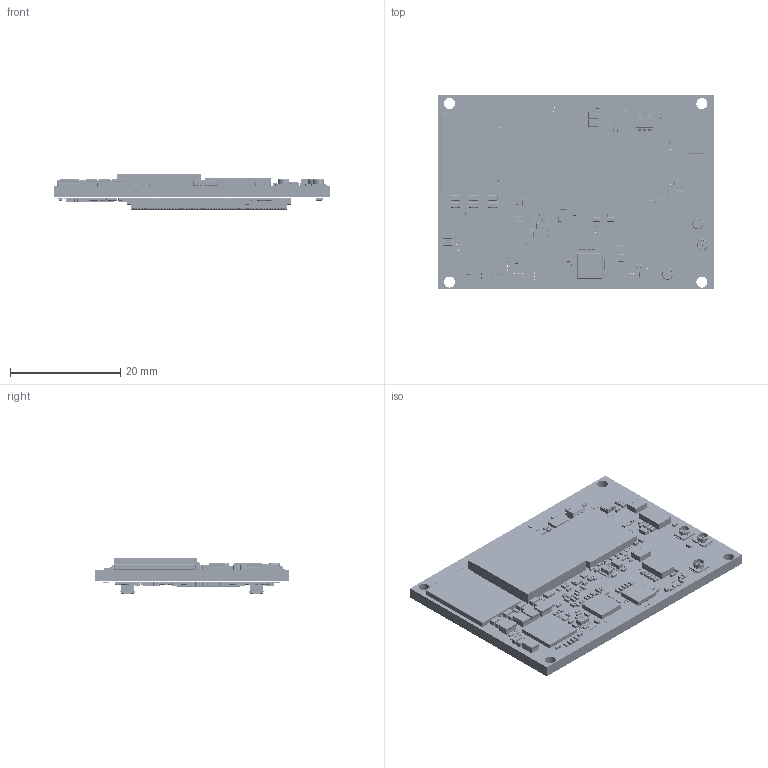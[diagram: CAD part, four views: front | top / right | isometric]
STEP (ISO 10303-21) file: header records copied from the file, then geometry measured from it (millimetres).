
FILE_DESCRIPTION(('STEP AP214'),'1');
FILE_NAME('IMX8XL SOM-v2_BoardAndModels.step','2022-11-09T07:35:20',(' '),(' '),'Spatial InterOp 3D','XD3DPlugin XRACreate',' ');
FILE_SCHEMA(('automotive_design'));
Length unit declared in the file: millimetre
Products named in the file (174): Submodel-E:\SolidRun-3D\3D-temp-IMX8XL SOM-V2.0\PCB\Layout\3D\Input_S\CAP-0201.xtd; CAP-0201; Submodel-CA10001_part_simplified_0201; DesignRootModel; Submodel-E:\SolidRun-3D\3D-temp-IMX8XL SOM-V2.0\PCB\Layout\3D\Input_S\0201-res.xtd; 0201-res; Submodel-RE10003_part_simplified_0201; Submodel-E:\SolidRun-3D\3D-temp-IMX8XL SOM-V2.0\PCB\Layout\3D\Input_S\0402-h-20-Kemet.xtd; 0402-h-20-Kemet; Submodel-CA20132_part_simplified_0402_rnd; Submodel-E:\SolidRun-3D\3D-temp-IMX8XL SOM-V2.0\PCB\Layout\3D\Input_S\0402RES.xtd; 0402RES; Submodel-RE20150_part_simplified_0402_rnd; Submodel-CA10010_part_simplified_0201; Submodel-E:\SolidRun-3D\3D-temp-IMX8XL SOM-V2.0\PCB\Layout\3D\Input_S\MPN_IN00183.xtd; MPN_IN00183; Submodel-IN00070_part_simplified_0402_rnd; Submodel-RE20482_part_simplified_0402_rnd; Submodel-CA20013_part_simplified_0402_rnd; Submodel-RE20567_part_simplified_0402_rnd; Submodel-RE20013_part_simplified_0402_rnd; Submodel-E:\SolidRun-3D\3D-temp-IMX8XL SOM-V2.0\PCB\Layout\3D\Input_S\0603-ind-H0p8.xtd; 0603-ind-H0p8; Submodel-IN00071_part_simplified_0603; Submodel-E:\SolidRun-3D\3D-temp-IMX8XL SOM-V2.0\PCB\Layout\3D\Input_S\0603-capcitor.xtd; 0603-capcitor; Submodel-CA30002_part_simplified_0603; Submodel-E:\SolidRun-3D\3D-temp-IMX8XL SOM-V2.0\PCB\Layout\3D\Input_S\0402-res-h10-good.xtd; 0402-res-h10-good; Submodel-RE20500_part_simplified_0402_rnd; Submodel-CA20131_part_simplified_0402_rnd; Submodel-E:\SolidRun-3D\3D-temp-IMX8XL SOM-V2.0\PCB\Layout\3D\Input_S\0402-ind.xtd; 0402-ind; Submodel-IN00013_part_simplified_0402_rnd; Submodel-CA20800_part_simplified_0402_rnd; Submodel-CA20120_part_simplified_0402_rnd; Submodel-RE20009_part_simplified_0402_rnd; Submodel-CA20008_part_simplified_0402_rnd; Submodel-CA20145_part_simplified_0402_rnd; Submodel-CA10013_part_simplified_0201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
Assembly tree (568 placements, depth 6):
  IMX8XL SOM-v2_BoardAndModels
    DesignRootModel
      Submodel-CA10001_part_simplified_0201  x54
        Submodel-E:\SolidRun-3D\3D-temp-IMX8XL SOM-V2.0\PCB\Layout\3D\Input_S\CAP-0201.xtd
          CAP-0201
      Submodel-RE10003_part_simplified_0201  x27
        Submodel-E:\SolidRun-3D\3D-temp-IMX8XL SOM-V2.0\PCB\Layout\3D\Input_S\0201-res.xtd
          0201-res
      Submodel-CA20132_part_simplified_0402_rnd  x17
        Submodel-E:\SolidRun-3D\3D-temp-IMX8XL SOM-V2.0\PCB\Layout\3D\Input_S\0402-h-20-Kemet.xtd
          0402-h-20-Kemet
      Submodel-RE20150_part_simplified_0402_rnd
        Submodel-E:\SolidRun-3D\3D-temp-IMX8XL SOM-V2.0\PCB\Layout\3D\Input_S\0402RES.xtd
          0402RES
      Submodel-CA10010_part_simplified_0201
        Submodel-E:\SolidRun-3D\3D-temp-IMX8XL SOM-V2.0\PCB\Layout\3D\Input_S\CAP-0201.xtd
          CAP-0201
      Submodel-IN00070_part_simplified_0402_rnd  x7
        Submodel-E:\SolidRun-3D\3D-temp-IMX8XL SOM-V2.0\PCB\Layout\3D\Input_S\MPN_IN00183.xtd
          MPN_IN00183
      Submodel-RE20482_part_simplified_0402_rnd  x14
        Submodel-E:\SolidRun-3D\3D-temp-IMX8XL SOM-V2.0\PCB\Layout\3D\Input_S\0402RES.xtd
          0402RES
      Submodel-CA20013_part_simplified_0402_rnd  x45
        Submodel-E:\SolidRun-3D\3D-temp-IMX8XL SOM-V2.0\PCB\Layout\3D\Input_S\0402-h-20-Kemet.xtd
          0402-h-20-Kemet
      Submodel-RE20567_part_simplified_0402_rnd
        Submodel-E:\SolidRun-3D\3D-temp-IMX8XL SOM-V2.0\PCB\Layout\3D\Input_S\0402RES.xtd
          0402RES
      Submodel-RE20013_part_simplified_0402_rnd  x17
        Submodel-E:\SolidRun-3D\3D-temp-IMX8XL SOM-V2.0\PCB\Layout\3D\Input_S\0402RES.xtd
          0402RES
      Submodel-IN00071_part_simplified_0603  x2
        Submodel-E:\SolidRun-3D\3D-temp-IMX8XL SOM-V2.0\PCB\Layout\3D\Input_S\0603-ind-H0p8.xtd
          0603-ind-H0p8
      Submodel-CA30002_part_simplified_0603  x22
        Submodel-E:\SolidRun-3D\3D-temp-IMX8XL SOM-V2.0\PCB\Layout\3D\Input_S\0603-capcitor.xtd
          0603-capcitor
      Submodel-RE20500_part_simplified_0402_rnd  x2
        Submodel-E:\SolidRun-3D\3D-temp-IMX8XL SOM-V2.0\PCB\Layout\3D\Input_S\0402-res-h10-good.xtd
          0402-res-h10-good
      Submodel-CA20131_part_simplified_0402_rnd  x18
        Submodel-E:\SolidRun-3D\3D-temp-IMX8XL SOM-V2.0\PCB\Layout\3D\Input_S\0402-h-20-Kemet.xtd
          0402-h-20-Kemet
      Submodel-IN00013_part_simplified_0402_rnd  x3
        Submodel-E:\SolidRun-3D\3D-temp-IMX8XL SOM-V2.0\PCB\Layout\3D\Input_S\0402-ind.xtd
          0402-ind
      Submodel-CA20800_part_simplified_0402_rnd  x9
        Submodel-E:\SolidRun-3D\3D-temp-IMX8XL SOM-V2.0\PCB\Layout\3D\Input_S\0402-h-20-Kemet.xtd
          0402-h-20-Kemet
      Submodel-CA20120_part_simplified_0402_rnd  x4
        Submodel-E:\SolidRun-3D\3D-temp-IMX8XL SOM-V2.0\PCB\Layout\3D\Input_S\0402-h-20-Kemet.xtd
          0402-h-20-Kemet
      Submodel-RE20009_part_simplified_0402_rnd  x8
        Submodel-E:\SolidRun-3D\3D-temp-IMX8XL SOM-V2.0\PCB\Layout\3D\Input_S\0402RES.xtd
          0402RES
      Submodel-CA20008_part_simplified_0402_rnd  x4
        Submodel-E:\SolidRun-3D\3D-temp-IMX8XL SOM-V2.0\PCB\Layout\3D\Input_S\0402-h-20-Kemet.xtd
          0402-h-20-Kemet
      Submodel-CA20145_part_simplified_0402_rnd  x16
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Bounding box: 50 x 35 x 6.41 mm (x, y, z)
Volume: 5037.1 mm3; surface area: 8830.1 mm2
Topology: 1835 solids, 1835 shells, 55508 faces, 136172 edges, 80304 vertices
Faces by surface type: plane 32116, cylinder 13693, sphere 5417, bspline 2944, torus 1314, cone 24
Full cylindrical faces by diameter (mm): 0.088 x1, 0.203 x47, 2 x4
Entity records: 228985 total; most frequent: CARTESIAN_POINT 42983, ORIENTED_EDGE 27894, DIRECTION 27377, EDGE_CURVE 13947, LINE 11337, VECTOR 11337, VERTEX_POINT 9184, AXIS2_PLACEMENT_3D 8020
